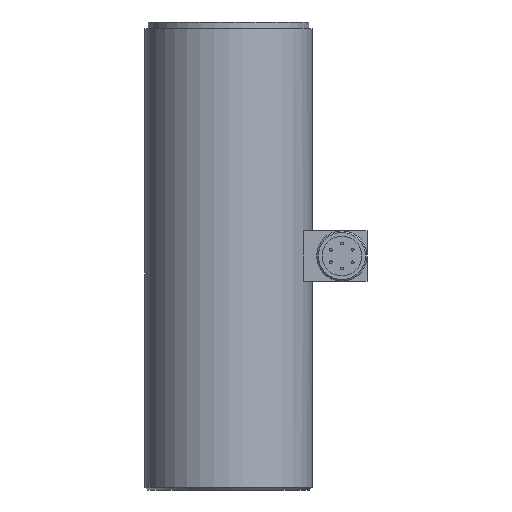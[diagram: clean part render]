
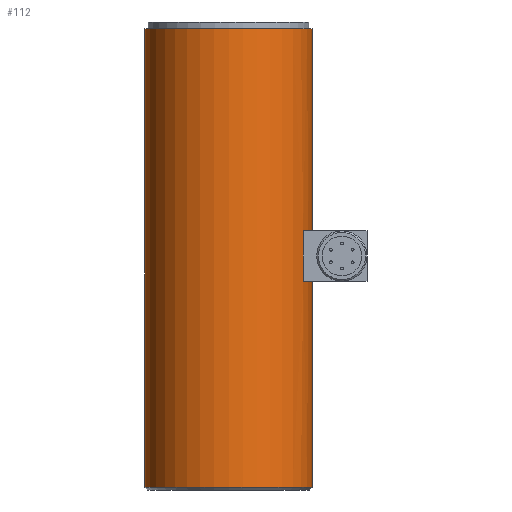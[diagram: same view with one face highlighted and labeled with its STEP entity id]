
A CAD part, front view. The second image highlights one B-rep face of the part: STEP entity #112.
In plain terms, the highlighted cylindrical face has radius 31.75 mm (diameter 63.5 mm), a partial arc.
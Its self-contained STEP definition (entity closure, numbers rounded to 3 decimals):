
#112=ADVANCED_FACE('',(#207),#208,.T.);
#207=FACE_OUTER_BOUND('',#353,.T.);
#208=CYLINDRICAL_SURFACE('',#354,31.75);
#353=EDGE_LOOP('',(#600,#601,#602,#603,#604,#605,#606,#607));
#354=AXIS2_PLACEMENT_3D('',#608,#609,#610);
#600=ORIENTED_EDGE('',*,*,#964,.F.);
#601=ORIENTED_EDGE('',*,*,#965,.T.);
#602=ORIENTED_EDGE('',*,*,#966,.F.);
#603=ORIENTED_EDGE('',*,*,#961,.F.);
#604=ORIENTED_EDGE('',*,*,#967,.F.);
#605=ORIENTED_EDGE('',*,*,#968,.T.);
#606=ORIENTED_EDGE('',*,*,#969,.T.);
#607=ORIENTED_EDGE('',*,*,#970,.T.);
#608=CARTESIAN_POINT('',(0.0,0.,88.15));
#609=DIRECTION('',(0.0,0.,1.0));
#610=DIRECTION('',(1.0,0.0,0.0));
#961=EDGE_CURVE('',#1118,#1121,#1122,.T.);
#964=EDGE_CURVE('',#1126,#1127,#1128,.T.);
#965=EDGE_CURVE('',#1126,#1129,#1130,.T.);
#966=EDGE_CURVE('',#1121,#1129,#1131,.T.);
#967=EDGE_CURVE('',#1132,#1118,#1133,.T.);
#968=EDGE_CURVE('',#1132,#1134,#1135,.T.);
#969=EDGE_CURVE('',#1134,#1136,#1137,.T.);
#970=EDGE_CURVE('',#1136,#1127,#1138,.T.);
#1118=VERTEX_POINT('',#1349);
#1121=VERTEX_POINT('',#1353);
#1122=CIRCLE('',#1354,31.75);
#1126=VERTEX_POINT('',#1359);
#1127=VERTEX_POINT('',#1360);
#1128=LINE('',#1361,#1362);
#1129=VERTEX_POINT('',#1363);
#1130=CIRCLE('',#1364,31.75);
#1131=LINE('',#1365,#1366);
#1132=VERTEX_POINT('',#1367);
#1133=LINE('',#1368,#1369);
#1134=VERTEX_POINT('',#1370);
#1135=CIRCLE('',#1371,31.75);
#1136=VERTEX_POINT('',#1372);
#1137=LINE('',#1373,#1374);
#1138=CIRCLE('',#1375,31.75);
#1349=CARTESIAN_POINT('',(31.75,0.,1.0));
#1353=CARTESIAN_POINT('',(-31.75,0.,1.0));
#1354=AXIS2_PLACEMENT_3D('',#1634,#1635,#1636);
#1359=CARTESIAN_POINT('',(31.75,0.,175.3));
#1360=CARTESIAN_POINT('',(31.75,0.,98.45));
#1361=CARTESIAN_POINT('',(31.75,0.,88.15));
#1362=VECTOR('',#1641,1.0);
#1363=CARTESIAN_POINT('',(-31.75,0.,175.3));
#1364=AXIS2_PLACEMENT_3D('',#1642,#1643,#1644);
#1365=CARTESIAN_POINT('',(-31.75,0.,88.15));
#1366=VECTOR('',#1645,1.0);
#1367=CARTESIAN_POINT('',(31.75,0.,79.35));
#1368=CARTESIAN_POINT('',(31.75,0.,88.15));
#1369=VECTOR('',#1646,1.0);
#1370=CARTESIAN_POINT('',(28.335,-14.325,79.35));
#1371=AXIS2_PLACEMENT_3D('',#1647,#1648,#1649);
#1372=CARTESIAN_POINT('',(28.335,-14.325,98.45));
#1373=CARTESIAN_POINT('',(28.335,-14.325,88.9));
#1374=VECTOR('',#1650,1.0);
#1375=AXIS2_PLACEMENT_3D('',#1651,#1652,#1653);
#1634=CARTESIAN_POINT('',(0.0,0.,1.0));
#1635=DIRECTION('',(0.0,0.,-1.0));
#1636=DIRECTION('',(1.0,0.0,0.0));
#1641=DIRECTION('',(0.0,0.,-1.0));
#1642=CARTESIAN_POINT('',(0.0,0.,175.3));
#1643=DIRECTION('',(0.0,0.,-1.0));
#1644=DIRECTION('',(1.0,0.0,0.0));
#1645=DIRECTION('',(0.0,0.,1.0));
#1646=DIRECTION('',(0.0,0.,-1.0));
#1647=CARTESIAN_POINT('',(0.0,0.,79.35));
#1648=DIRECTION('',(0.,0.,-1.0));
#1649=DIRECTION('',(1.0,0.,0.));
#1650=DIRECTION('',(0.0,0.,1.0));
#1651=CARTESIAN_POINT('',(0.0,0.,98.45));
#1652=DIRECTION('',(0.,0.,1.0));
#1653=DIRECTION('',(1.0,0.,0.));
